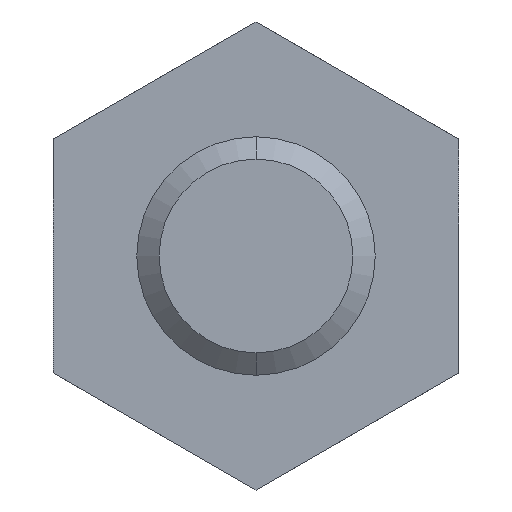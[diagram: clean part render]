
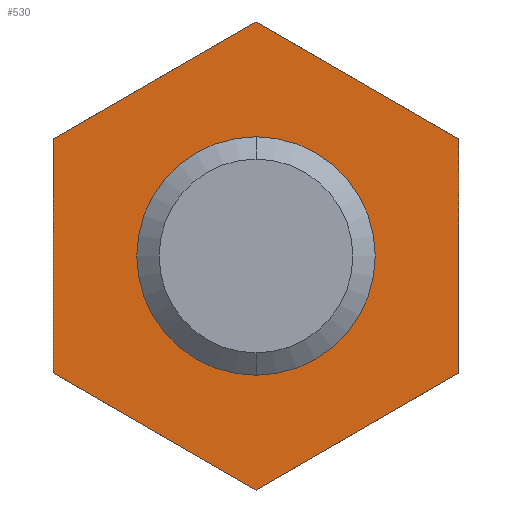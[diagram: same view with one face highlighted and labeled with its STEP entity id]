
A CAD part, front view. The second image highlights one B-rep face of the part: STEP entity #530.
In plain terms, the highlighted planar face has unit normal (0, -1, 0).
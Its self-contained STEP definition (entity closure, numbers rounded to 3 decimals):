
#85 = EDGE_CURVE ( 'NONE', #321, #150, #1333, .T. ) ;
#106 = EDGE_CURVE ( 'NONE', #139, #3687, #1401, .T. ) ;
#139 = VERTEX_POINT ( 'NONE', #1447 ) ;
#141 = EDGE_CURVE ( 'NONE', #150, #139, #1446, .T. ) ;
#150 = VERTEX_POINT ( 'NONE', #1490 ) ;
#152 = VERTEX_POINT ( 'NONE', #1487 ) ;
#229 = VERTEX_POINT ( 'NONE', #1642 ) ;
#231 = EDGE_CURVE ( 'NONE', #152, #229, #1641, .T. ) ;
#321 = VERTEX_POINT ( 'NONE', #1817 ) ;
#323 = EDGE_CURVE ( 'NONE', #336, #321, #1816, .T. ) ;
#336 = VERTEX_POINT ( 'NONE', #1897 ) ;
#338 = EDGE_CURVE ( 'NONE', #3682, #336, #1896, .T. ) ;
#513 = ORIENTED_EDGE ( 'NONE', *, *, #338, .T. ) ;
#514 = ORIENTED_EDGE ( 'NONE', *, *, #323, .T. ) ;
#515 = ORIENTED_EDGE ( 'NONE', *, *, #85, .T. ) ;
#516 = ORIENTED_EDGE ( 'NONE', *, *, #141, .T. ) ;
#517 = ORIENTED_EDGE ( 'NONE', *, *, #106, .T. ) ;
#530 = ADVANCED_FACE ( 'NONE', ( #2165, #2164 ), #2223, .T. ) ;
#531 = EDGE_LOOP ( 'NONE', ( #532, #533 ) ) ;
#532 = ORIENTED_EDGE ( 'NONE', *, *, #231, .T. ) ;
#533 = ORIENTED_EDGE ( 'NONE', *, *, #534, .T. ) ;
#534 = EDGE_CURVE ( 'NONE', #229, #152, #2221, .T. ) ;
#535 = EDGE_LOOP ( 'NONE', ( #536, #513, #514, #515, #516, #517 ) ) ;
#536 = ORIENTED_EDGE ( 'NONE', *, *, #3688, .T. ) ;
#1330 = DIRECTION ( 'NONE',  ( 0.866, 0., -0.5 ) ) ;
#1331 = VECTOR ( 'NONE', #1330, 1000. ) ;
#1332 = CARTESIAN_POINT ( 'NONE',  ( -8.5, 25., -4.907 ) ) ;
#1333 = LINE ( 'NONE', #1332, #1331 ) ;
#1389 = VECTOR ( 'NONE', #1399, 1000. ) ;
#1399 = DIRECTION ( 'NONE',  ( 0., 0., 1. ) ) ;
#1400 = CARTESIAN_POINT ( 'NONE',  ( 8.5, 25., -4.907 ) ) ;
#1401 = LINE ( 'NONE', #1400, #1389 ) ;
#1443 = DIRECTION ( 'NONE',  ( 0.866, 0., 0.5 ) ) ;
#1444 = VECTOR ( 'NONE', #1443, 1000. ) ;
#1445 = CARTESIAN_POINT ( 'NONE',  ( 0., 25., -9.815 ) ) ;
#1446 = LINE ( 'NONE', #1445, #1444 ) ;
#1447 = CARTESIAN_POINT ( 'NONE',  ( 8.5, 25., -4.907 ) ) ;
#1487 = CARTESIAN_POINT ( 'NONE',  ( -5., 25., 0. ) ) ;
#1490 = CARTESIAN_POINT ( 'NONE',  ( 0., 25., -9.815 ) ) ;
#1637 = DIRECTION ( 'NONE',  ( -1., 0., 0. ) ) ;
#1638 = DIRECTION ( 'NONE',  ( 0., 1., 0. ) ) ;
#1639 = CARTESIAN_POINT ( 'NONE',  ( 0., 25., 0. ) ) ;
#1640 = AXIS2_PLACEMENT_3D ( 'NONE', #1639, #1638, #1637 ) ;
#1641 = CIRCLE ( 'NONE', #1640, 5. ) ;
#1642 = CARTESIAN_POINT ( 'NONE',  ( 5., 25., 0. ) ) ;
#1816 = LINE ( 'NONE', #1873, #1872 ) ;
#1817 = CARTESIAN_POINT ( 'NONE',  ( -8.5, 25., -4.907 ) ) ;
#1871 = DIRECTION ( 'NONE',  ( 0., 0., -1. ) ) ;
#1872 = VECTOR ( 'NONE', #1871, 1000. ) ;
#1873 = CARTESIAN_POINT ( 'NONE',  ( -8.5, 25., 4.907 ) ) ;
#1893 = DIRECTION ( 'NONE',  ( -0.866, 0., -0.5 ) ) ;
#1894 = VECTOR ( 'NONE', #1893, 1000. ) ;
#1895 = CARTESIAN_POINT ( 'NONE',  ( 0., 25., 9.815 ) ) ;
#1896 = LINE ( 'NONE', #1895, #1894 ) ;
#1897 = CARTESIAN_POINT ( 'NONE',  ( -8.5, 25., 4.907 ) ) ;
#2164 = FACE_OUTER_BOUND ( 'NONE', #535, .T. ) ;
#2165 = FACE_BOUND ( 'NONE', #531, .T. ) ;
#2213 = DIRECTION ( 'NONE',  ( -1., 0., 0. ) ) ;
#2214 = DIRECTION ( 'NONE',  ( 0., 1., 0. ) ) ;
#2215 = CARTESIAN_POINT ( 'NONE',  ( 0., 25., 0. ) ) ;
#2216 = AXIS2_PLACEMENT_3D ( 'NONE', #2215, #2214, #2213 ) ;
#2218 = DIRECTION ( 'NONE',  ( 1., 0., 0. ) ) ;
#2219 = DIRECTION ( 'NONE',  ( 0., -1., 0. ) ) ;
#2220 = CARTESIAN_POINT ( 'NONE',  ( -5., 25., 0. ) ) ;
#2221 = CIRCLE ( 'NONE', #2216, 5. ) ;
#2222 = AXIS2_PLACEMENT_3D ( 'NONE', #2220, #2219, #2218 ) ;
#2223 = PLANE ( 'NONE',  #2222 ) ;
#3444 = CARTESIAN_POINT ( 'NONE',  ( 8.5, 25., 4.907 ) ) ;
#3455 = CARTESIAN_POINT ( 'NONE',  ( 0., 25., 9.815 ) ) ;
#3502 = DIRECTION ( 'NONE',  ( -0.866, 0., 0.5 ) ) ;
#3503 = VECTOR ( 'NONE', #3502, 1000. ) ;
#3504 = CARTESIAN_POINT ( 'NONE',  ( 8.5, 25., 4.907 ) ) ;
#3505 = LINE ( 'NONE', #3504, #3503 ) ;
#3682 = VERTEX_POINT ( 'NONE', #3455 ) ;
#3687 = VERTEX_POINT ( 'NONE', #3444 ) ;
#3688 = EDGE_CURVE ( 'NONE', #3687, #3682, #3505, .T. ) ;
